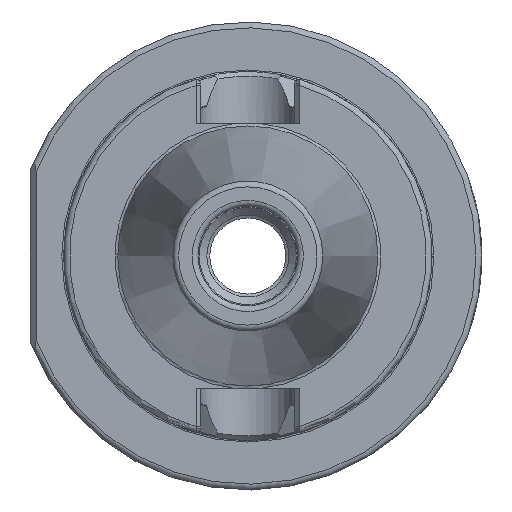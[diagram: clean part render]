
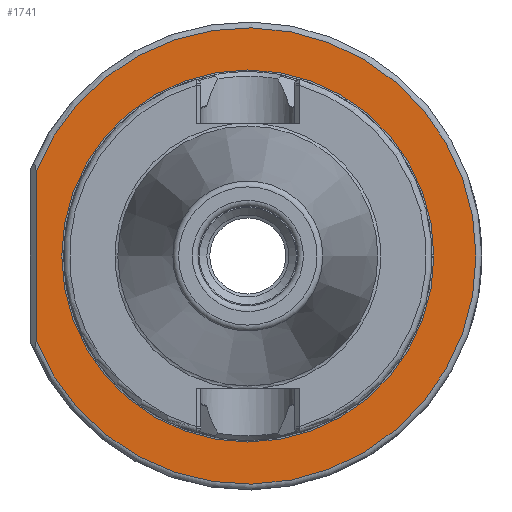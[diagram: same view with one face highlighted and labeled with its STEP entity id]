
A CAD part, left-side view. The second image highlights one B-rep face of the part: STEP entity #1741.
In plain terms, the highlighted planar face has unit normal (-1, 0, 0).
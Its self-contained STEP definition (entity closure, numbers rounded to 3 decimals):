
#100=FACE_BOUND('',#328,.T.);
#109=CIRCLE('',#1911,39.);
#111=CIRCLE('',#1914,31.8);
#220=FACE_OUTER_BOUND('',#327,.T.);
#327=EDGE_LOOP('',(#1161,#1162));
#328=EDGE_LOOP('',(#1163));
#441=LINE('',#2607,#542);
#542=VECTOR('',#2106,10.);
#704=VERTEX_POINT('',#2591);
#705=VERTEX_POINT('',#2606);
#707=VERTEX_POINT('',#2628);
#880=EDGE_CURVE('',#704,#705,#441,.T.);
#883=EDGE_CURVE('',#705,#704,#109,.T.);
#885=EDGE_CURVE('',#707,#707,#111,.T.);
#1161=ORIENTED_EDGE('',*,*,#880,.F.);
#1162=ORIENTED_EDGE('',*,*,#883,.F.);
#1163=ORIENTED_EDGE('',*,*,#885,.F.);
#1702=PLANE('',#1913);
#1741=ADVANCED_FACE('',(#220,#100),#1702,.T.);
#1911=AXIS2_PLACEMENT_3D('',#2625,#2110,#2111);
#1913=AXIS2_PLACEMENT_3D('',#2627,#2114,#2115);
#1914=AXIS2_PLACEMENT_3D('',#2629,#2116,#2117);
#2106=DIRECTION('',(0.,0.,1.));
#2110=DIRECTION('center_axis',(1.,0.,0.));
#2111=DIRECTION('ref_axis',(0.,-1.,0.));
#2114=DIRECTION('center_axis',(-1.,0.,0.));
#2115=DIRECTION('ref_axis',(0.,0.,1.));
#2116=DIRECTION('center_axis',(-1.,0.,0.));
#2117=DIRECTION('ref_axis',(0.,-1.,0.));
#2591=CARTESIAN_POINT('',(35.,36.2,-14.511));
#2606=CARTESIAN_POINT('',(35.,36.2,14.511));
#2607=CARTESIAN_POINT('',(35.,36.2,0.));
#2625=CARTESIAN_POINT('Origin',(35.,0.,0.));
#2627=CARTESIAN_POINT('Origin',(35.,40.,0.));
#2628=CARTESIAN_POINT('',(35.,0.,31.8));
#2629=CARTESIAN_POINT('Origin',(35.,0.,0.));
